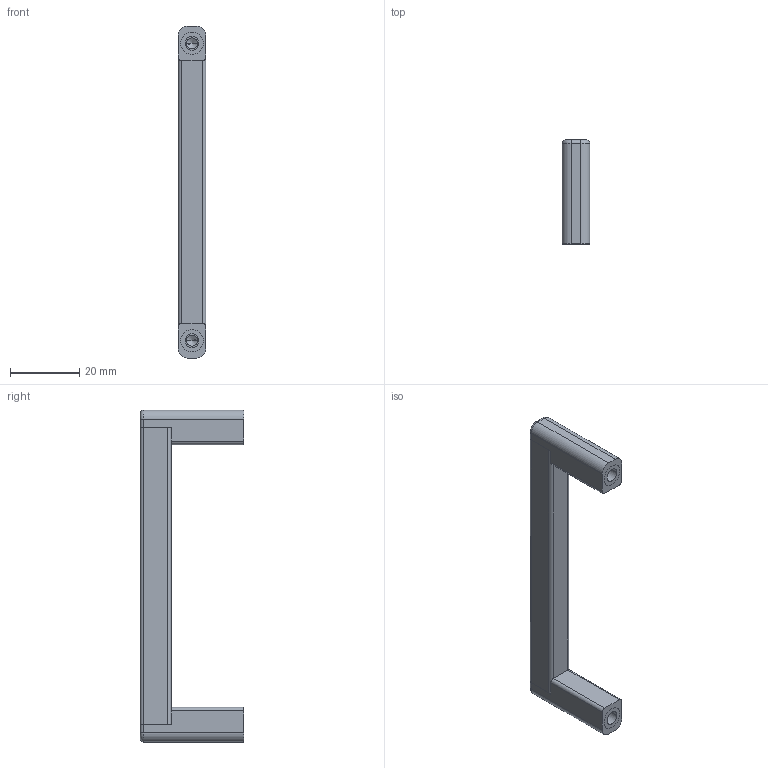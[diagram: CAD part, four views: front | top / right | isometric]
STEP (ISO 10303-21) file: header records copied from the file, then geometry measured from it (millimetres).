
FILE_DESCRIPTION (( 'STEP AP203' ), '1' );
FILE_NAME ('79350.W0086-4.step', '2018-04-28T14:55:17', ( '' ), ( '' ), 'SwSTEP 2.0', 'SolidWorks 2017', '' );
FILE_SCHEMA (( 'CONFIG_CONTROL_DESIGN' ));
Length unit declared in the file: millimetre
Products named in the file (3): 79350.W0086-4; Part3_79350.W0086-4; Part1
Assembly tree (3 placements, depth 2):
  79350.W0086-4
    Part3_79350.W0086-4
    Part1  x2
Bounding box: 8 x 30 x 96 mm (x, y, z)
Volume: 9208.5 mm3; surface area: 7692.8 mm2
Topology: 5 solids, 5 shells, 110 faces, 266 edges, 162 vertices
Faces by surface type: cylinder 46, plane 40, cone 12, torus 12
Entity records: 2190 total; most frequent: DIRECTION 355, CARTESIAN_POINT 318, ORIENTED_EDGE 302, EDGE_CURVE 151, AXIS2_PLACEMENT_3D 134, VERTEX_POINT 97, VECTOR 87, LINE 87
